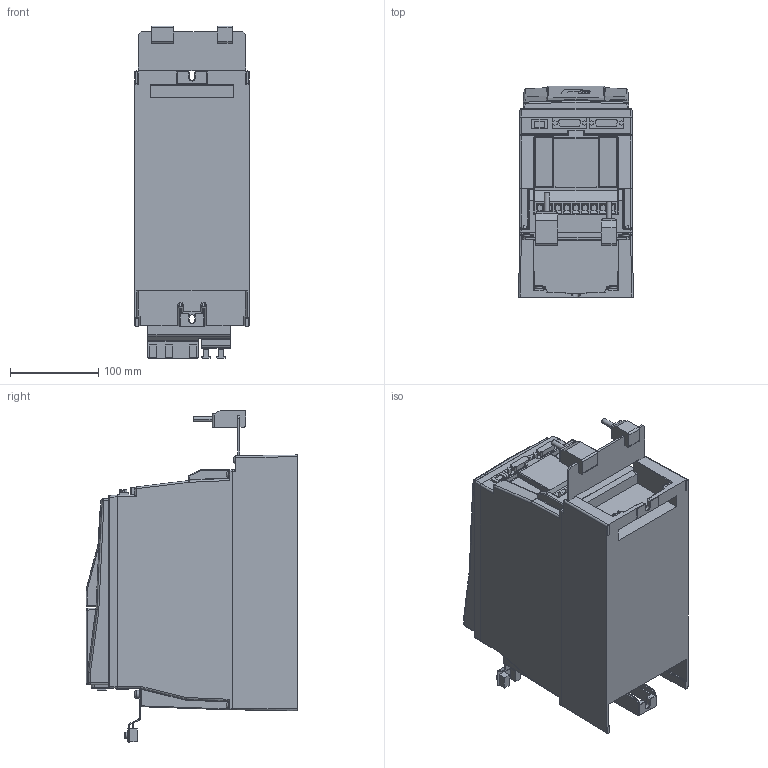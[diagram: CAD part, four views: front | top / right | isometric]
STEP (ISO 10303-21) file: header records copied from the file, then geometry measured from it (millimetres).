
FILE_DESCRIPTION (( 'STEP AP214' ), '1' );
FILE_NAME ('F6-2TR0-A031.STEP', '2020-11-30T14:16:14', ( '' ), ( '' ), 'SwSTEP 2.0', 'SolidWorks 2019', '' );
FILE_SCHEMA (( 'AUTOMOTIVE_DESIGN' ));
Length unit declared in the file: millimetre
Products named in the file (1): F6-2TR0-A031
Bounding box: 130 x 240 x 376.5 mm (x, y, z)
Volume: 7140430.4 mm3; surface area: 333779.4 mm2
Topology: 4 solids, 4 shells, 1539 faces, 3805 edges, 2273 vertices
Faces by surface type: plane 702, cylinder 443, bspline 245, torus 65, sphere 60, cone 24
Entity records: 52965 total; most frequent: CARTESIAN_POINT 18869, ORIENTED_EDGE 7466, DIRECTION 6497, EDGE_CURVE 3733, VERTEX_POINT 2273, AXIS2_PLACEMENT_3D 2192, LINE 2113, VECTOR 2113
